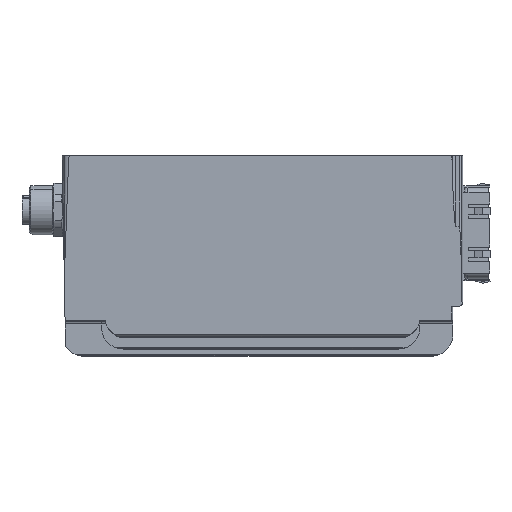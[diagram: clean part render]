
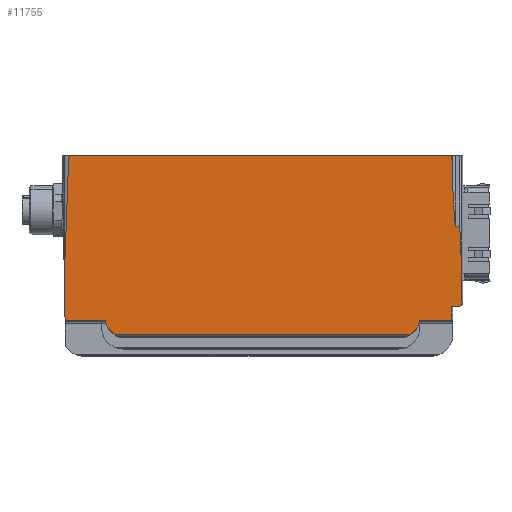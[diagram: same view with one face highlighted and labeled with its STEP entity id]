
A CAD part, left-side view. The second image highlights one B-rep face of the part: STEP entity #11755.
In plain terms, the highlighted planar face has unit normal (-1, 0, -0.017).
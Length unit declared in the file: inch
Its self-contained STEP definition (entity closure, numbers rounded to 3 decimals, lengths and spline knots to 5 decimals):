
#11755=ADVANCED_FACE('',(#23042),#23043,.F.);
#23042=FACE_OUTER_BOUND('',#37264,.T.);
#23043=PLANE('',#37265);
#37264=EDGE_LOOP('',(#63556,#63557,#63558,#63559,#63560,#63561,#63562,#63563,#63564,#63565,#63566,#63567,#63568,#63569,#63570,#63571,#63572));
#37265=AXIS2_PLACEMENT_3D('',#63573,#63574,#63575);
#63556=ORIENTED_EDGE('',*,*,#76599,.F.);
#63557=ORIENTED_EDGE('',*,*,#80639,.F.);
#63558=ORIENTED_EDGE('',*,*,#71429,.F.);
#63559=ORIENTED_EDGE('',*,*,#80915,.F.);
#63560=ORIENTED_EDGE('',*,*,#75224,.F.);
#63561=ORIENTED_EDGE('',*,*,#80916,.F.);
#63562=ORIENTED_EDGE('',*,*,#80917,.F.);
#63563=ORIENTED_EDGE('',*,*,#73487,.F.);
#63564=ORIENTED_EDGE('',*,*,#71453,.F.);
#63565=ORIENTED_EDGE('',*,*,#78891,.F.);
#63566=ORIENTED_EDGE('',*,*,#70394,.T.);
#63567=ORIENTED_EDGE('',*,*,#77935,.F.);
#63568=ORIENTED_EDGE('',*,*,#80918,.F.);
#63569=ORIENTED_EDGE('',*,*,#76595,.F.);
#63570=ORIENTED_EDGE('',*,*,#78091,.F.);
#63571=ORIENTED_EDGE('',*,*,#78282,.F.);
#63572=ORIENTED_EDGE('',*,*,#80919,.F.);
#63573=CARTESIAN_POINT('',(6.60354,-0.16075,-16.92951));
#63574=DIRECTION('',(1.,0.,0.017));
#63575=DIRECTION('',(0.,1.0,0.));
#70394=EDGE_CURVE('',#82948,#82946,#82949,.T.);
#71429=EDGE_CURVE('',#84794,#84795,#84796,.T.);
#71453=EDGE_CURVE('',#84835,#84837,#84838,.T.);
#73487=EDGE_CURVE('',#84837,#88309,#88310,.T.);
#75224=EDGE_CURVE('',#91101,#91099,#91103,.T.);
#76595=EDGE_CURVE('',#93187,#93188,#93189,.T.);
#76599=EDGE_CURVE('',#93193,#93195,#93196,.T.);
#77935=EDGE_CURVE('',#95096,#82946,#95098,.T.);
#78091=EDGE_CURVE('',#95320,#93187,#95321,.T.);
#78282=EDGE_CURVE('',#95600,#95320,#95601,.T.);
#78891=EDGE_CURVE('',#82948,#84835,#96439,.T.);
#80639=EDGE_CURVE('',#84795,#93193,#98708,.T.);
#80915=EDGE_CURVE('',#91099,#84794,#99026,.T.);
#80916=EDGE_CURVE('',#99027,#91101,#99028,.T.);
#80917=EDGE_CURVE('',#88309,#99027,#99029,.T.);
#80918=EDGE_CURVE('',#93188,#95096,#99030,.T.);
#80919=EDGE_CURVE('',#93195,#95600,#99031,.T.);
#82946=VERTEX_POINT('',#101565);
#82948=VERTEX_POINT('',#101567);
#82949=LINE('',#101568,#101569);
#84794=VERTEX_POINT('',#104193);
#84795=VERTEX_POINT('',#104194);
#84796=LINE('',#104195,#104196);
#84835=VERTEX_POINT('',#104252);
#84837=VERTEX_POINT('',#104255);
#84838=ELLIPSE('',#104256,4.58555,0.07874);
#88309=VERTEX_POINT('',#109345);
#88310=LINE('',#109346,#109347);
#91099=VERTEX_POINT('',#113593);
#91101=VERTEX_POINT('',#113596);
#91103=ELLIPSE('',#113598,0.03938,0.03937);
#93187=VERTEX_POINT('',#116753);
#93188=VERTEX_POINT('',#116754);
#93189=LINE('',#116755,#116756);
#93193=VERTEX_POINT('',#116762);
#93195=VERTEX_POINT('',#116764);
#93196=LINE('',#116765,#116766);
#95096=VERTEX_POINT('',#119681);
#95098=ELLIPSE('',#119683,4.58555,0.07874);
#95320=VERTEX_POINT('',#120008);
#95321=ELLIPSE('',#120009,0.23626,0.23622);
#95600=VERTEX_POINT('',#120472);
#95601=LINE('',#120473,#120474);
#96439=ELLIPSE('',#121717,4.58555,0.07874);
#98708=ELLIPSE('',#125110,4.58555,0.07874);
#99026=ELLIPSE('',#125601,0.03938,0.03937);
#99027=VERTEX_POINT('',#125602);
#99028=ELLIPSE('',#125603,2.29277,0.03937);
#99029=ELLIPSE('',#125604,2.29277,0.03937);
#99030=LINE('',#125605,#125606);
#99031=ELLIPSE('',#125607,0.23626,0.23622);
#101565=CARTESIAN_POINT('',(6.58799,2.05906,-16.02386));
#101567=CARTESIAN_POINT('',(6.58799,-2.15143,-16.02386));
#101568=CARTESIAN_POINT('',(6.58799,-0.01206,-16.02386));
#101569=VECTOR('',#128281,0.03937);
#104193=CARTESIAN_POINT('',(6.61639,-2.23228,-17.67741));
#104194=CARTESIAN_POINT('',(6.61639,-2.14373,-17.67741));
#104195=CARTESIAN_POINT('',(6.61639,-1.18286,-17.67741));
#104196=VECTOR('',#129645,0.03937);
#104252=CARTESIAN_POINT('',(6.5939,-2.16192,-16.36773));
#104255=CARTESIAN_POINT('',(6.60127,-2.19518,-16.79693));
#104256=AXIS2_PLACEMENT_3D('',#129667,#129668,#129669);
#109345=CARTESIAN_POINT('',(6.60127,-2.23228,-16.79693));
#109346=CARTESIAN_POINT('',(6.60127,-1.18286,-16.79693));
#109347=VECTOR('',#132187,0.03937);
#113593=CARTESIAN_POINT('',(6.61619,-2.26012,-17.66587));
#113596=CARTESIAN_POINT('',(6.61613,-2.2631,-17.66254));
#113598=AXIS2_PLACEMENT_3D('',#134217,#134218,#134219);
#116753=CARTESIAN_POINT('',(6.61909,1.66535,-17.83489));
#116754=CARTESIAN_POINT('',(6.61909,2.1063,-17.83489));
#116755=CARTESIAN_POINT('',(6.61909,-0.11384,-17.83489));
#116756=VECTOR('',#135767,0.03937);
#116762=CARTESIAN_POINT('',(6.61909,-2.14588,-17.83489));
#116764=CARTESIAN_POINT('',(6.61909,-1.79921,-17.83489));
#116765=CARTESIAN_POINT('',(6.61909,-0.11384,-17.83489));
#116766=VECTOR('',#135773,0.03937);
#119681=CARTESIAN_POINT('',(6.61091,2.11459,-17.3583));
#119683=AXIS2_PLACEMENT_3D('',#137141,#137142,#137143);
#120008=CARTESIAN_POINT('',(6.6218,1.56249,-17.99271));
#120009=AXIS2_PLACEMENT_3D('',#137307,#137308,#137309);
#120472=CARTESIAN_POINT('',(6.6218,-1.69635,-17.99271));
#120473=CARTESIAN_POINT('',(6.6218,-0.06693,-17.99271));
#120474=VECTOR('',#137512,0.03937);
#121717=AXIS2_PLACEMENT_3D('',#138185,#138186,#138187);
#125110=AXIS2_PLACEMENT_3D('',#139804,#139805,#139806);
#125601=AXIS2_PLACEMENT_3D('',#140016,#140017,#140018);
#125602=CARTESIAN_POINT('',(6.6128,-2.26012,-17.46837));
#125603=AXIS2_PLACEMENT_3D('',#140019,#140020,#140021);
#125604=AXIS2_PLACEMENT_3D('',#140022,#140023,#140024);
#125605=CARTESIAN_POINT('',(6.60407,2.12151,-16.96024));
#125606=VECTOR('',#140025,0.03937);
#125607=AXIS2_PLACEMENT_3D('',#140026,#140027,#140028);
#128281=DIRECTION('',(0.0,1.0,0.0));
#129645=DIRECTION('',(0.0,1.0,0.0));
#129667=CARTESIAN_POINT('',(6.52253,-2.19518,-12.21206));
#129668=DIRECTION('',(-1.,0.,-0.017));
#129669=DIRECTION('',(0.017,0.,-1.));
#132187=DIRECTION('',(0.0,-1.0,0.));
#134217=CARTESIAN_POINT('',(6.61571,-2.23228,-17.63804));
#134218=DIRECTION('',(1.,0.,0.017));
#134219=DIRECTION('',(0.017,0.,-1.));
#135767=DIRECTION('',(0.0,1.0,0.0));
#135773=DIRECTION('',(0.0,1.0,0.0));
#137141=CARTESIAN_POINT('',(6.66673,2.05906,-20.60873));
#137142=DIRECTION('',(1.,0.,0.017));
#137143=DIRECTION('',(-0.017,0.,1.));
#137307=CARTESIAN_POINT('',(6.61842,1.43244,-17.79552));
#137308=DIRECTION('',(1.,0.,0.017));
#137309=DIRECTION('',(0.017,0.,-1.));
#137512=DIRECTION('',(0.0,1.0,0.0));
#138185=CARTESIAN_POINT('',(6.52253,-2.19518,-12.21206));
#138186=DIRECTION('',(-1.,0.,-0.017));
#138187=DIRECTION('',(0.017,0.,-1.));
#139804=CARTESIAN_POINT('',(6.66673,-2.08318,-20.60873));
#139805=DIRECTION('',(1.,0.,0.017));
#139806=DIRECTION('',(-0.017,0.,1.));
#140016=CARTESIAN_POINT('',(6.61571,-2.23228,-17.63804));
#140017=DIRECTION('',(1.,0.,0.017));
#140018=DIRECTION('',(0.017,0.,-1.));
#140019=CARTESIAN_POINT('',(6.64064,-2.23228,-19.08936));
#140020=DIRECTION('',(1.,0.,0.017));
#140021=DIRECTION('',(-0.017,0.,1.));
#140022=CARTESIAN_POINT('',(6.64064,-2.23228,-19.08936));
#140023=DIRECTION('',(1.,0.,0.017));
#140024=DIRECTION('',(-0.017,0.,1.));
#140025=DIRECTION('',(-0.017,0.017,1.));
#140026=CARTESIAN_POINT('',(6.61842,-1.5663,-17.79552));
#140027=DIRECTION('',(1.,0.,0.017));
#140028=DIRECTION('',(0.017,0.,-1.));
